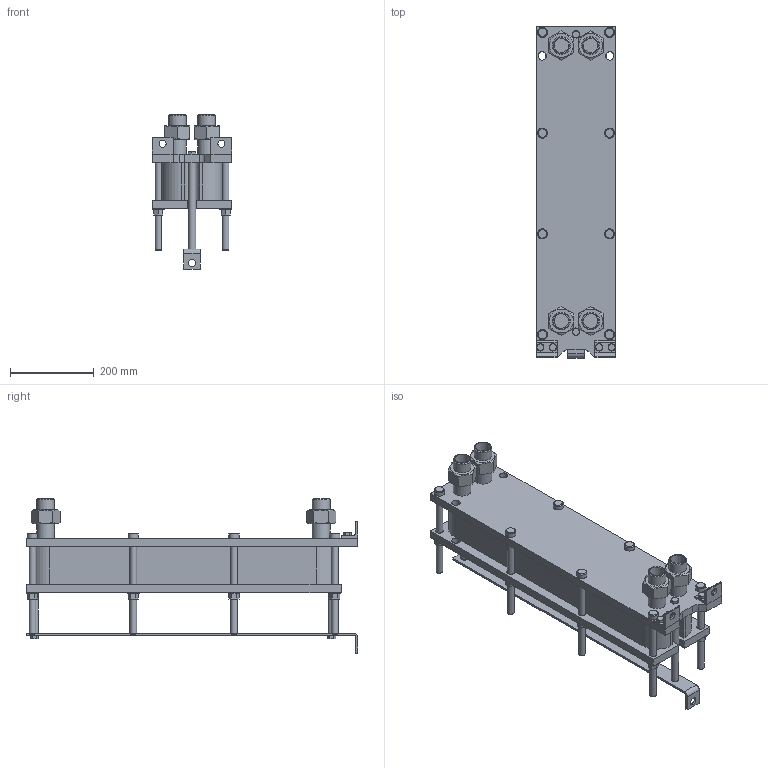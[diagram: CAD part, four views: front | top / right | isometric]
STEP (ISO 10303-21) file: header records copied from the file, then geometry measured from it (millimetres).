
FILE_DESCRIPTION(/* description */ (''),/* implementation_level */ '2;1');
FILE_NAME(/* name */ 'C:\Users\zhuro\Desktop\ENCO\TO\ЭН-008\ЭН-0,5-008-29-1.stp',/* time_stamp */ '2022-06-06T10:47:11+03:00',/* author */ ('zhuro'),/* organization */ (''),/* preprocessor_version */ 'ST-DEVELOPER v18.1',/* originating_system */ 'Autodesk Inventor 2022',/* authorisation */ '');
FILE_SCHEMA (('AUTOMOTIVE_DESIGN { 1 0 10303 214 3 1 1 }'));
Length unit declared in the file: millimetre
Products named in the file (1): ЭН-0,5-008-29-1
Bounding box: 190 x 790 x 368.2 mm (x, y, z)
Volume: 15835781.7 mm3; surface area: 1420947.8 mm2
Topology: 40 solids, 40 shells, 428 faces, 924 edges, 606 vertices
Faces by surface type: plane 273, cylinder 109, cone 40, torus 6
Full cylindrical faces by diameter (mm): 12 x6, 14 x2, 16 x20, 17 x8, 18 x19, 20 x5, 24 x8, 28 x8, 34.3 x8, 42.3 x8
Entity records: 15843 total; most frequent: CARTESIAN_POINT 5991, DIRECTION 1984, ORIENTED_EDGE 1848, EDGE_CURVE 924, AXIS2_PLACEMENT_3D 715, VERTEX_POINT 606, LINE 554, VECTOR 554
